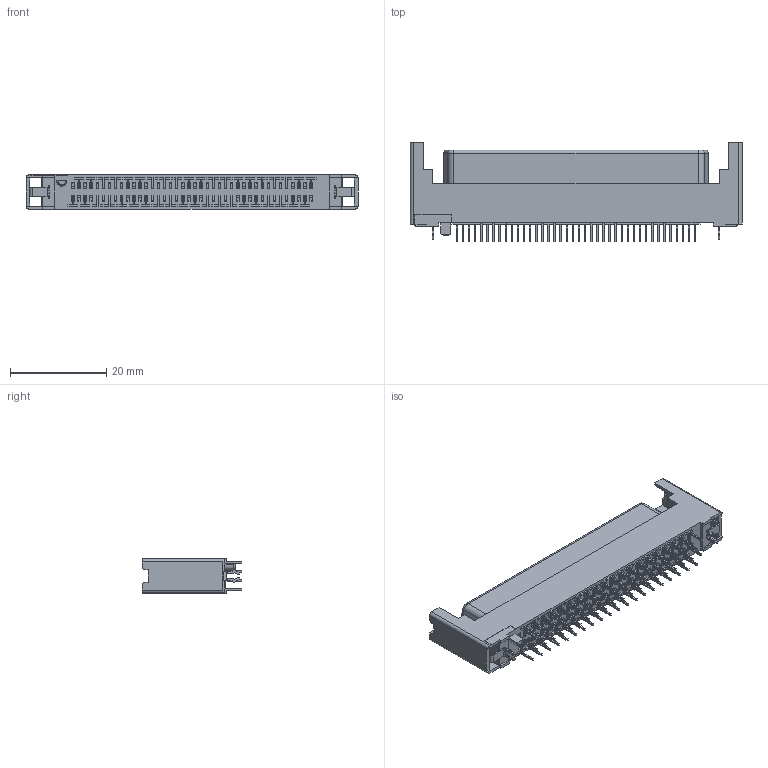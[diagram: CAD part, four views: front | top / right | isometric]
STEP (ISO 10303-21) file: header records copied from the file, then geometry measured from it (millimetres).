
FILE_DESCRIPTION((''),'2;1');
FILE_NAME('717441080','2008-02-08T',('sbh'),(''),'PRO/ENGINEER BY PARAMETRIC TECHNOLOGY CORPORATION, 2003451','PRO/ENGINEER BY PARAMETRIC TECHNOLOGY CORPORATION, 2003451','');
FILE_SCHEMA(('CONFIG_CONTROL_DESIGN'));
Length unit declared in the file: inch
Products named in the file (1): 717441080
Bounding box: 69.01 x 20.68 x 7.11 mm (x, y, z)
Volume: 4625.1 mm3; surface area: 8799.4 mm2
Topology: 1 solids, 1 shells, 1904 faces, 5808 edges, 3862 vertices
Faces by surface type: plane 1472, cylinder 427, bspline 4, cone 1
Entity records: 64581 total; most frequent: CARTESIAN_POINT 11484, ORIENTED_EDGE 11282, DIRECTION 10639, EDGE_CURVE 5641, VECTOR 4773, LINE 4773, VERTEX_POINT 3694, AXIS2_PLACEMENT_3D 2933
